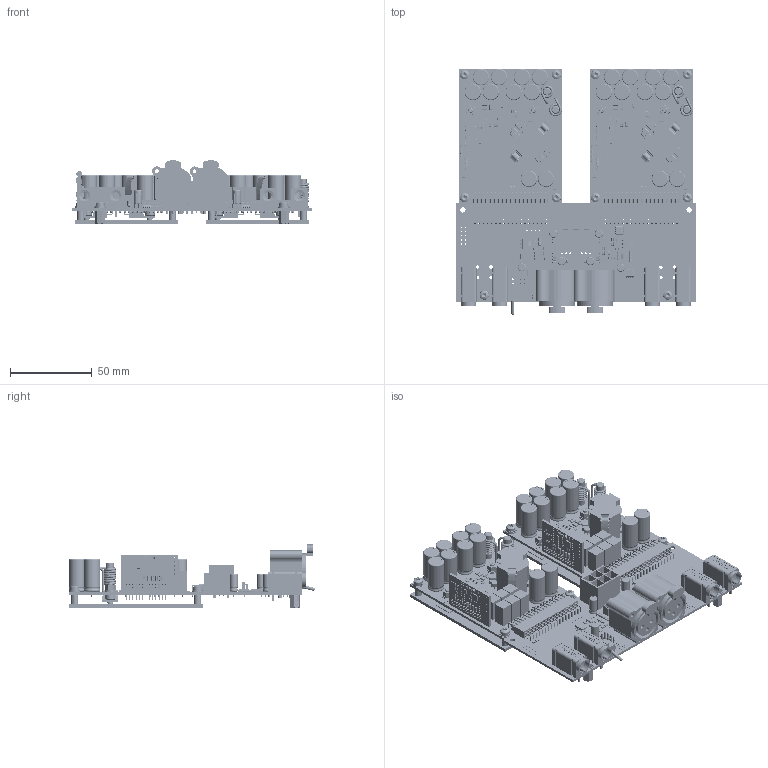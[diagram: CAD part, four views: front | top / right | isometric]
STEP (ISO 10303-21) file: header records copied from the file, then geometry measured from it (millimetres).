
FILE_DESCRIPTION(/* description */ ('Alibre Inc.'),/* implementation_level */ '2;1');
FILE_NAME(/* name */ 'export-EBBEC163-FE12-4CFE-A373-E78A7DE3763E',/* time_stamp */ '2024-11-21T15:18:53+01:00',/* author */ (''),/* organization */ (''),/* preprocessor_version */ 'ST-DEVELOPER v17',/* originating_system */ 'Alibre',/* authorisation */ '');
FILE_SCHEMA (('CONFIG_CONTROL_DESIGN'));
Products named in the file (582): Open CASCADE STEP translator 7.5 2.1.1; Board; SW3dPS-LED SMD0603; D_R6_A2; D_R6_A1; tuimelschakelaar; S1; SO8_PIN; SO8_BODY; SO8; U2; SW3dPS-0603 SMD Capacitor; C11_B2; C11_B1; C9_B2; C9_B1; D-NC3FAH2; J9; J4; B7B-EH-A; J3; B06P-VL; J1; SW3dPS-0603 SMD Resistor; R7_A2; R7_A1; deltron-571-0100-4mm-90deg-single-socket-data-black; J13_A2; J13_A1; 571-001-0300; 571-002-9110_deformed; 571-003-9210; deltron-571-0100-4mm-90deg-single-socket-data-red; J11_A2; J11_A1; _P2SSW-118-02-G-D-RA; _T1SSW-118-02-G-D-RA; SSW-118-02-G-D-RA; J10_A2; J10_A1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
Bounding box: 146 x 150.16 x 38.77 mm (x, y, z)
Volume: 150399.2 mm3; surface area: 168205.1 mm2
Topology: 1255 solids, 1359 shells, 54051 faces, 131263 edges, 78533 vertices
Faces by surface type: plane 21456, bspline 14097, cylinder 13458, sphere 4260, torus 478, cone 302
Full cylindrical faces by diameter (mm): 0.25 x2, 0.7 x12, 0.8 x108, 0.9 x244, 0.94 x11, 1 x28, 1.2 x10, 1.6 x16, 1.8 x8, 2 x6, 2.1 x8, 2.459 x6, 2.5 x10, 2.693 x10, 3 x12, 3.2 x54, 3.6 x4, 3.8 x2, 4.2 x8, 5.6 x10, 6 x8, 7 x14
Entity records: 292873 total; most frequent: CARTESIAN_POINT 68628, ORIENTED_EDGE 32612, DIRECTION 29110, EDGE_CURVE 16576, VECTOR 11678, LINE 11678, AXIS2_PLACEMENT_3D 10989, VERTEX_POINT 10557
